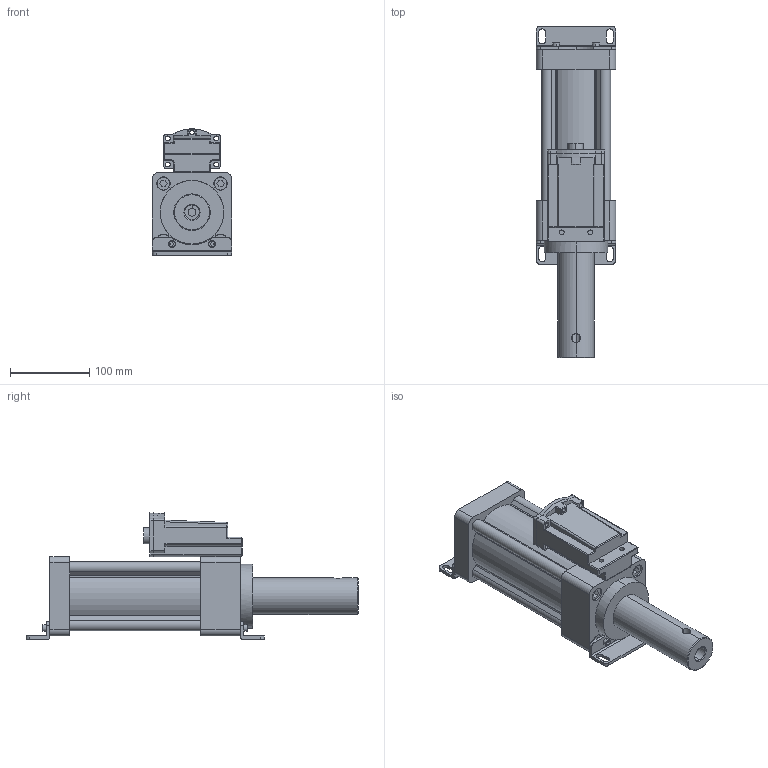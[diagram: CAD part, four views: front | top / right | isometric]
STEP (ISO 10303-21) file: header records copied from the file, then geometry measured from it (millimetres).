
FILE_DESCRIPTION (( 'STEP AP203' ), '1' );
FILE_NAME ('MHA0807N70.STEP', '2016-03-19T03:46:48', ( 'WIN' ), ( '' ), 'SwSTEP 2.0', 'SolidWorks 2014', '' );
FILE_SCHEMA (( 'CONFIG_CONTROL_DESIGN' ));
Length unit declared in the file: millimetre
Products named in the file (1): MHA0807N70
Bounding box: 100 x 418 x 158.97 mm (x, y, z)
Surface area: 304607.1 mm2 (no closed solid volume)
Topology: 0 solids, 6 shells, 455 faces, 1155 edges, 740 vertices
Faces by surface type: plane 220, cylinder 200, cone 20, sphere 8, torus 5, bspline 2
Entity records: 14308 total; most frequent: CARTESIAN_POINT 2974, DIRECTION 2428, ORIENTED_EDGE 2263, EDGE_CURVE 1143, AXIS2_PLACEMENT_3D 864, VERTEX_POINT 740, VECTOR 700, LINE 700
